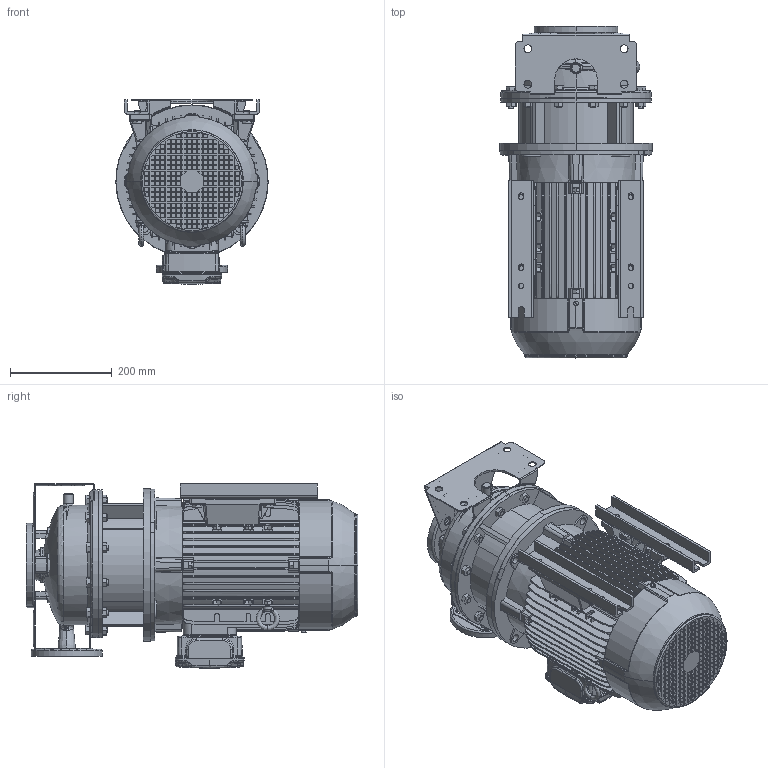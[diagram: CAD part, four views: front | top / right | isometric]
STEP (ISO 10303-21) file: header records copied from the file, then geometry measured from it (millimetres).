
FILE_DESCRIPTION (( 'STEP AP214' ), '1' );
FILE_NAME ('3LS 32-200_5.5 & 7.5_(132S)_W21.STEP', '2026-04-29T02:09:53', ( '' ), ( '' ), 'SwSTEP 2.0', 'SolidWorks 2024', '' );
FILE_SCHEMA (( 'AUTOMOTIVE_DESIGN' ));
Length unit declared in the file: inch
Products named in the file (4): 3LS 32-200_5.5 & 7.5_(132S)_W21; 32-200_5_5_ie2_STEP; 132S ALIE3_W21T_B35; Bolt & Washer M10 x 20.STEP
Assembly tree (6 placements, depth 2):
  3LS 32-200_5.5 & 7.5_(132S)_W21
    32-200_5_5_ie2_STEP
    132S ALIE3_W21T_B35
    Bolt & Washer M10 x 20.STEP  x4
Bounding box: 300 x 653.8 x 363 mm (x, y, z)
Volume: 26523817.9 mm3; surface area: 2119026.8 mm2
Topology: 18 solids, 18 shells, 4104 faces, 10615 edges, 6905 vertices
Faces by surface type: plane 2806, cylinder 772, torus 180, bspline 162, cone 152, sphere 32
Entity records: 137274 total; most frequent: CARTESIAN_POINT 39355, ORIENTED_EDGE 20798, DIRECTION 19287, EDGE_CURVE 10399, LINE 7583, VECTOR 7583, VERTEX_POINT 6779, AXIS2_PLACEMENT_3D 5852
